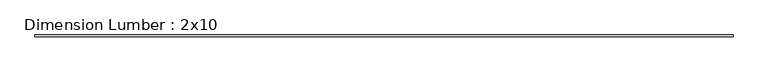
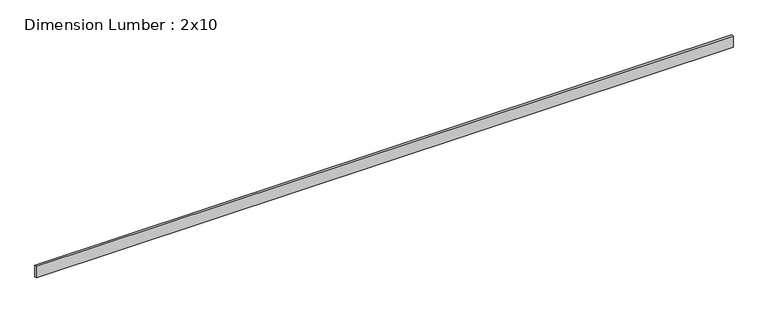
"""IFC4 building model written with IfcOpenShell, lengths in millimetres: beam geometry, Dimension Lumber : 2x10."""

from ifc_helpers import new_model, si_unit, frame, origin, place, context, project, spatial, polyline, outline, extrude, source, transform, mapped, element, save


def dimension_lumber_2x10_37ac17ff(model_context):
    return source(origin(), model_context, "Body", "SweptSolid", [
        extrude(outline(polyline([(4588.305989, 19.05), (4588.305989, -19.05), (-9019.871011, -19.05), (-9019.871011, 19.05), (4588.305989, 19.05)])), frame((0.0, 0.0, -117.475), z_axis=(0.0, 0.0, 1.0), x_axis=(1.0, 0.0, 0.0)), (0.0, 0.0, 1.0), 234.95),
    ])


if __name__ == "__main__":
    model = new_model("IFC4")
    model_context = context("Model", 3, world=origin())
    ifc_project = project(units=[si_unit("LENGTHUNIT", "METRE", prefix="MILLI")], contexts=[model_context])
    site = spatial("IfcSite", under=ifc_project)
    building = spatial("IfcBuilding", under=site)
    placement = place(None, origin())
    dimension_lumber_2x10_shape = dimension_lumber_2x10_37ac17ff(model_context)
    element("IfcBeam", 1, ObjectType="Dimension Lumber : 2x10", at=placement, inside=building, context=model_context, shape_type="MappedRepresentation", body=[
        mapped(dimension_lumber_2x10_shape, transform((0.0, 0.0, 0.0), x_axis=(1.0, 0.0, 0.0), y_axis=(0.0, 1.0, 0.0), z_axis=(0.0, 0.0, 1.0))),
    ])
    save(model, "model.ifc")
